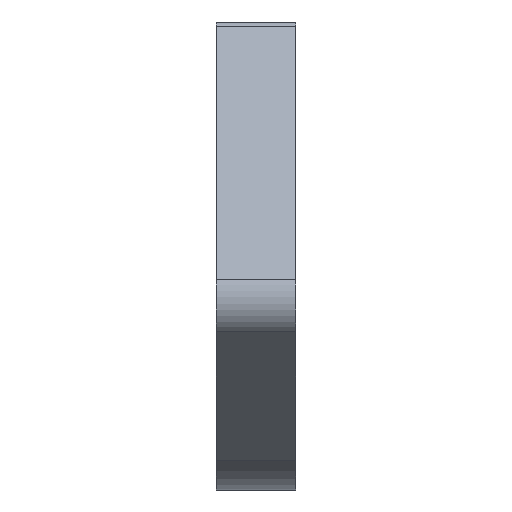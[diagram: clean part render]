
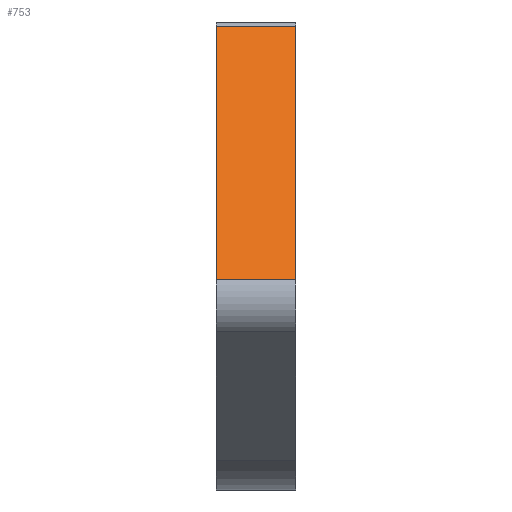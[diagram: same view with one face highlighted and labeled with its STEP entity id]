
A CAD part, front view. The second image highlights one B-rep face of the part: STEP entity #753.
In plain terms, the highlighted planar face has unit normal (0, -0.83, 0.557).
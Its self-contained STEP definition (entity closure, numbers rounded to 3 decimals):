
#38=PLANE('',#846);
#75=FACE_OUTER_BOUND('',#117,.T.);
#117=EDGE_LOOP('',(#647,#648,#649,#650));
#149=LINE('',#1147,#221);
#192=LINE('',#1278,#264);
#193=LINE('',#1281,#265);
#194=LINE('',#1282,#266);
#221=VECTOR('',#909,10.);
#264=VECTOR('',#1054,10.);
#265=VECTOR('',#1057,10.);
#266=VECTOR('',#1058,10.);
#338=VERTEX_POINT('',#1144);
#339=VERTEX_POINT('',#1146);
#376=VERTEX_POINT('',#1276);
#377=VERTEX_POINT('',#1280);
#413=EDGE_CURVE('',#338,#339,#149,.T.);
#479=EDGE_CURVE('',#338,#376,#192,.T.);
#480=EDGE_CURVE('',#377,#376,#193,.T.);
#481=EDGE_CURVE('',#339,#377,#194,.T.);
#647=ORIENTED_EDGE('',*,*,#479,.T.);
#648=ORIENTED_EDGE('',*,*,#480,.F.);
#649=ORIENTED_EDGE('',*,*,#481,.F.);
#650=ORIENTED_EDGE('',*,*,#413,.F.);
#753=ADVANCED_FACE('',(#75),#38,.T.);
#846=AXIS2_PLACEMENT_3D('',#1279,#1055,#1056);
#909=DIRECTION('',(0.,0.557,0.83));
#1054=DIRECTION('',(1.,0.,0.));
#1055=DIRECTION('center_axis',(0.,-0.83,0.557));
#1056=DIRECTION('ref_axis',(0.,-0.557,-0.83));
#1057=DIRECTION('',(0.,-0.557,-0.83));
#1058=DIRECTION('',(1.,0.,0.));
#1144=CARTESIAN_POINT('',(-2.,-0.711,1.181));
#1146=CARTESIAN_POINT('',(-2.,7.813,13.877));
#1147=CARTESIAN_POINT('',(-2.,7.813,13.877));
#1276=CARTESIAN_POINT('',(2.,-0.711,1.181));
#1278=CARTESIAN_POINT('',(0.,-0.711,1.181));
#1279=CARTESIAN_POINT('Origin',(0.,7.813,13.877));
#1280=CARTESIAN_POINT('',(2.,7.813,13.877));
#1281=CARTESIAN_POINT('',(2.,7.813,13.877));
#1282=CARTESIAN_POINT('',(0.,7.813,13.877));
